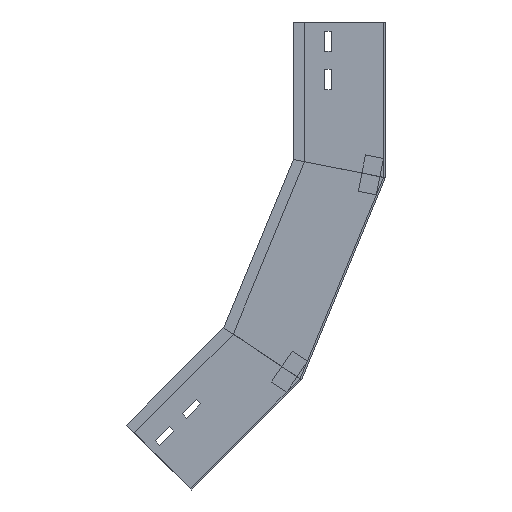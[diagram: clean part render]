
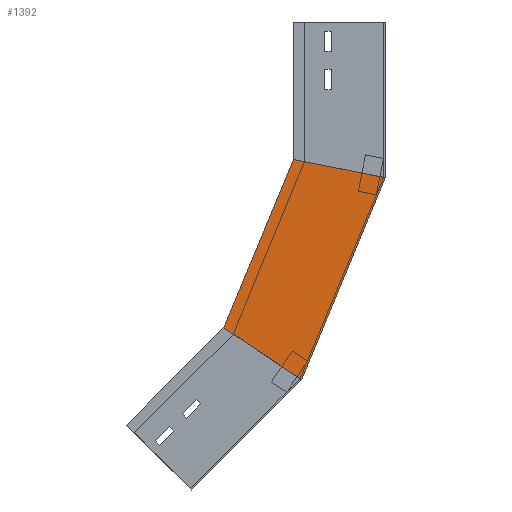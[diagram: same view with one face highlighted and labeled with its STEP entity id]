
A CAD part, left-side view. The second image highlights one B-rep face of the part: STEP entity #1392.
In plain terms, the highlighted planar face has unit normal (-1, 0, 0) as drawn and (1, 0, 0) by its records, which use the part's own axes.
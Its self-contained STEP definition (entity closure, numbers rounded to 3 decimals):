
#20 = LINE ( 'NONE', #282, #608 ) ;
#28 = LINE ( 'NONE', #272, #678 ) ;
#61 = DIRECTION ( 'NONE',  ( 0., 0., 1. ) ) ;
#70 = VERTEX_POINT ( 'NONE', #269 ) ;
#165 = ORIENTED_EDGE ( 'NONE', *, *, #790, .T. ) ;
#176 = PLANE ( 'NONE',  #1356 ) ;
#222 = VECTOR ( 'NONE', #1276, 1000. ) ;
#236 = CARTESIAN_POINT ( 'NONE',  ( 0., 91.117, -389.576 ) ) ;
#269 = CARTESIAN_POINT ( 'NONE',  ( 0., 0., -169.6 ) ) ;
#272 = CARTESIAN_POINT ( 'NONE',  ( 0., 92.388, -131.332 ) ) ;
#282 = CARTESIAN_POINT ( 'NONE',  ( 0., 32.452, -163.145 ) ) ;
#322 = DIRECTION ( 'NONE',  ( -1., 0., 0. ) ) ;
#342 = EDGE_CURVE ( 'NONE', #856, #70, #20, .T. ) ;
#366 = EDGE_LOOP ( 'NONE', ( #957, #708, #165, #1224 ) ) ;
#400 = CARTESIAN_POINT ( 'NONE',  ( 0., 100., -149.709 ) ) ;
#421 = CARTESIAN_POINT ( 'NONE',  ( 0., 0., -169.6 ) ) ;
#493 = CARTESIAN_POINT ( 'NONE',  ( 0., 0., -169.6 ) ) ;
#608 = VECTOR ( 'NONE', #859, 1000. ) ;
#627 = CARTESIAN_POINT ( 'NONE',  ( 0., 175.893, -332.93 ) ) ;
#670 = EDGE_CURVE ( 'NONE', #1416, #1096, #1383, .T. ) ;
#678 = VECTOR ( 'NONE', #958, 1000. ) ;
#708 = ORIENTED_EDGE ( 'NONE', *, *, #342, .T. ) ;
#790 = EDGE_CURVE ( 'NONE', #70, #1096, #1306, .T. ) ;
#795 = EDGE_CURVE ( 'NONE', #856, #1416, #28, .T. ) ;
#856 = VERTEX_POINT ( 'NONE', #400 ) ;
#859 = DIRECTION ( 'NONE',  ( 0., -0.981, -0.195 ) ) ;
#933 = CARTESIAN_POINT ( 'NONE',  ( 0., 129.74, -363.769 ) ) ;
#957 = ORIENTED_EDGE ( 'NONE', *, *, #795, .F. ) ;
#958 = DIRECTION ( 'NONE',  ( 0., 0.383, -0.924 ) ) ;
#1071 = DIRECTION ( 'NONE',  ( 0., 0.383, -0.924 ) ) ;
#1088 = VECTOR ( 'NONE', #1071, 1000. ) ;
#1096 = VERTEX_POINT ( 'NONE', #236 ) ;
#1125 = FACE_OUTER_BOUND ( 'NONE', #366, .T. ) ;
#1224 = ORIENTED_EDGE ( 'NONE', *, *, #670, .F. ) ;
#1276 = DIRECTION ( 'NONE',  ( 0., -0.831, -0.556 ) ) ;
#1306 = LINE ( 'NONE', #493, #1088 ) ;
#1356 = AXIS2_PLACEMENT_3D ( 'NONE', #421, #322, #61 ) ;
#1383 = LINE ( 'NONE', #933, #222 ) ;
#1392 = ADVANCED_FACE ( 'NONE', ( #1125 ), #176, .F. ) ;
#1416 = VERTEX_POINT ( 'NONE', #627 ) ;
